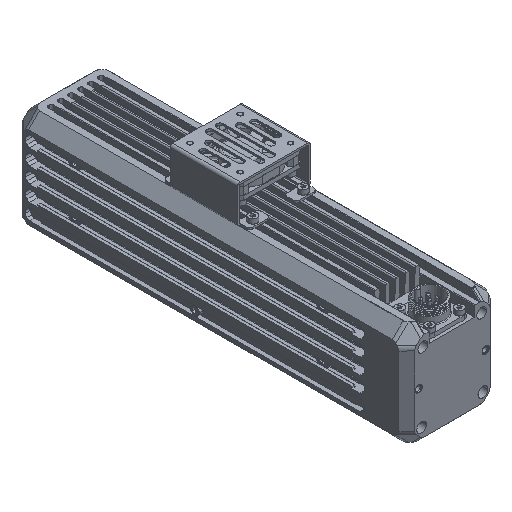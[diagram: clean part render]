
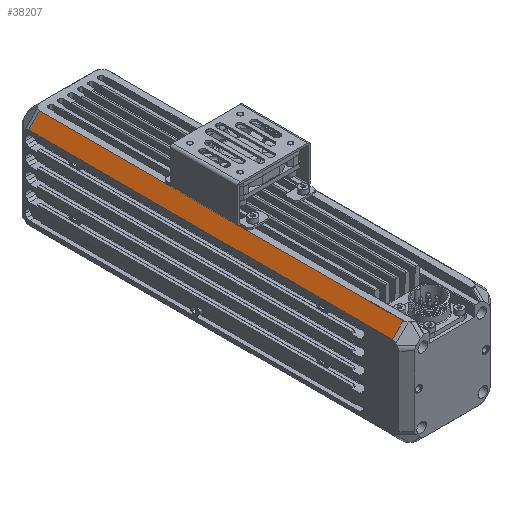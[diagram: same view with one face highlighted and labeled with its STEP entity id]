
A CAD part, isometric view. The second image highlights one B-rep face of the part: STEP entity #38207.
In plain terms, the highlighted planar face has unit normal (-0.707, 0, 0.707).
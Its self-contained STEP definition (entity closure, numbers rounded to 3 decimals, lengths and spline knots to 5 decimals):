
#2954=DIRECTION('',(0.,1.,0.));
#2955=VECTOR('',#2954,0.20576);
#2956=CARTESIAN_POINT('',(-0.022,-0.1,0.));
#2957=LINE('',#2956,#2955);
#2962=CARTESIAN_POINT('',(-0.022,0.10576,0.));
#3718=DIRECTION('',(-0.707,0.,-0.707));
#3719=VECTOR('',#3718,0.00008);
#3720=CARTESIAN_POINT('',(-0.022,-0.1,0.));
#3721=LINE('',#3720,#3719);
#4264=DIRECTION('',(-0.707,0.,-0.707));
#4265=VECTOR('',#4264,0.00982);
#4266=CARTESIAN_POINT('',(-0.02206,-0.12576,
-0.00006));
#4267=LINE('',#4266,#4265);
#4280=CARTESIAN_POINT('',(-0.029,-0.12576,-0.007));
#4286=DIRECTION('',(0.,1.,0.));
#4287=VECTOR('',#4286,0.23152);
#4288=CARTESIAN_POINT('',(-0.029,-0.12576,-0.007));
#4289=LINE('',#4288,#4287);
#4294=DIRECTION('',(0.,-1.,0.));
#4295=VECTOR('',#4294,0.02576);
#4296=CARTESIAN_POINT('',(-0.02206,-0.1,-0.00006));
#4297=LINE('',#4296,#4295);
#4691=CARTESIAN_POINT('',(-0.029,0.10576,-0.007));
#14880=DIRECTION('',(0.707,0.,0.707));
#14881=VECTOR('',#14880,0.0099);
#14882=CARTESIAN_POINT('',(-0.029,0.10576,-0.007));
#14883=LINE('',#14882,#14881);
#25544=VERTEX_POINT('',#4691);
#25545=VERTEX_POINT('',#2962);
#26237=VERTEX_POINT('',#4280);
#26305=CARTESIAN_POINT('',(-0.02206,-0.12576,
-0.00006));
#26306=VERTEX_POINT('',#26305);
#30170=CARTESIAN_POINT('',(-0.022,-0.1,0.));
#30171=VERTEX_POINT('',#30170);
#30275=CARTESIAN_POINT('',(-0.02206,-0.1,-0.00006));
#30277=VERTEX_POINT('',#30275);
#38191=CARTESIAN_POINT('',(-0.029,-0.1,-0.007));
#38192=DIRECTION('',(-0.707,0.,0.707));
#38193=DIRECTION('',(0.707,0.,0.707));
#38194=AXIS2_PLACEMENT_3D('',#38191,#38192,#38193);
#38195=PLANE('',#38194);
#38196=ORIENTED_EDGE('',*,*,#37000,.T.);
#38198=ORIENTED_EDGE('',*,*,#38197,.T.);
#38199=ORIENTED_EDGE('',*,*,#38174,.T.);
#38201=ORIENTED_EDGE('',*,*,#38200,.T.);
#38203=ORIENTED_EDGE('',*,*,#38202,.T.);
#38204=ORIENTED_EDGE('',*,*,#36069,.F.);
#38205=EDGE_LOOP('',(#38196,#38198,#38199,#38201,#38203,#38204));
#38206=FACE_OUTER_BOUND('',#38205,.F.);
#36069=EDGE_CURVE('',#30171,#25545,#2957,.T.);
#37000=EDGE_CURVE('',#30171,#30277,#3721,.T.);
#38174=EDGE_CURVE('',#26306,#26237,#4267,.T.);
#38197=EDGE_CURVE('',#30277,#26306,#4297,.T.);
#38200=EDGE_CURVE('',#26237,#25544,#4289,.T.);
#38202=EDGE_CURVE('',#25544,#25545,#14883,.T.);
#38207=ADVANCED_FACE('',(#38206),#38195,.T.);
